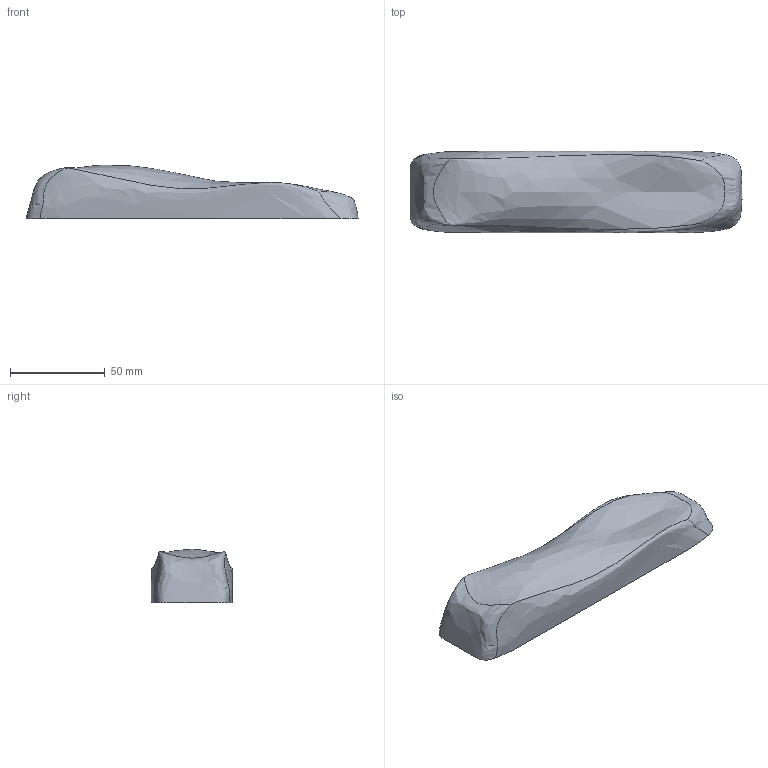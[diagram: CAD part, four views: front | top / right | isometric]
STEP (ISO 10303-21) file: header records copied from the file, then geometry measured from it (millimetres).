
FILE_DESCRIPTION(/* description */ (''),/* implementation_level */ '2;1');
FILE_NAME(/* name */ 'C:/Users/dmontenegro/Desktop/Pinewood Derby project/Fifth Attempt v7.step',/* time_stamp */ '2016-01-26T13:47:49-06:00',/* author */ (''),/* organization */ (''),/* preprocessor_version */ 'ST-DEVELOPER v16.2',/* originating_system */ 'Autodesk Translation Framework v4.3.0.3010',/* authorisation */ '');
FILE_SCHEMA (('AUTOMOTIVE_DESIGN { 1 0 10303 214 3 1 1 }'));
Length unit declared in the file: centimetre
Products named in the file (2): Fifth Attempt v7; Derby Version 4 v3
Assembly tree (1 placements, depth 2):
  Fifth Attempt v7
    Derby Version 4 v3
Bounding box: 175.24 x 43.18 x 28.31 mm (x, y, z)
Volume: 142343.3 mm3; surface area: 21429.7 mm2
Topology: 1 solids, 1 shells, 6 faces, 12 edges, 8 vertices
Faces by surface type: bspline 6
Entity records: 1656 total; most frequent: CARTESIAN_POINT 1541, ORIENTED_EDGE 24, EDGE_CURVE 12, VERTEX_POINT 8, FACE_OUTER_BOUND 6, EDGE_LOOP 6, ADVANCED_FACE 6, DIRECTION 6
